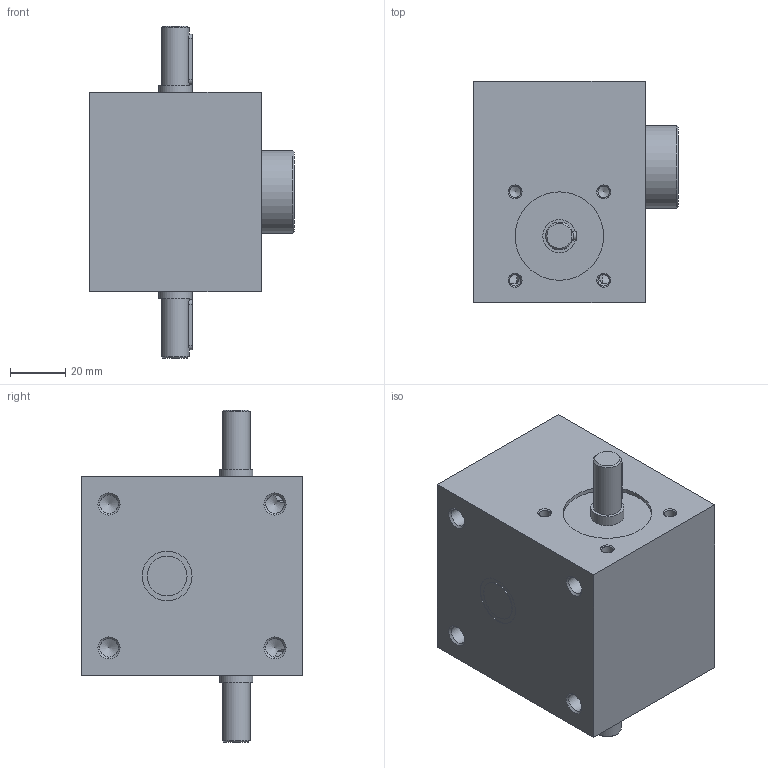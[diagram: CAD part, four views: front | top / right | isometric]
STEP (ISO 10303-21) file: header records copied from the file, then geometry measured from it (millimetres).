
FILE_DESCRIPTION(/* description */ (''),/* implementation_level */ '2;1');
FILE_NAME(/* name */ 'D:\FOLDER Tomasz Michałek\pliki z pulpitu\Katalogi przekładni\Podnośniki śrubowe\Pivexin Technology\Podnosniki - potrzebne\Modele podnosnikow\R\SG5\M1-R-161\SG5-R-L.stp',/* time_stamp */ '2016-05-17T22:59:28+02:00',/* author */ ('Tomasz'),/* organization */ (''),/* preprocessor_version */ 'ST-DEVELOPER v16.1',/* originating_system */ 'Autodesk Inventor 2016',/* authorisation */ '');
FILE_SCHEMA (('AUTOMOTIVE_DESIGN { 1 0 10303 214 3 1 1 }'));
Length unit declared in the file: millimetre
Products named in the file (3): SG5-R-H_obudowa; SG-R-H_slimak; SG5-R-H
Assembly tree (2 placements, depth 2):
  SG5-R-H
    SG5-R-H_obudowa
    SG-R-H_slimak
Bounding box: 74 x 80 x 120 mm (x, y, z)
Volume: 343559.9 mm3; surface area: 46201 mm2
Topology: 2 solids, 2 shells, 89 faces, 217 edges, 136 vertices
Faces by surface type: cone 35, cylinder 32, plane 22
Full cylindrical faces by diameter (mm): 4.134 x8, 6.647 x8, 10 x2, 12 x2, 14.4 x1, 18 x2, 30 x1, 32 x2
Entity records: 2287 total; most frequent: CARTESIAN_POINT 577, DIRECTION 362, ORIENTED_EDGE 246, AXIS2_PLACEMENT_3D 167, EDGE_LOOP 160, EDGE_CURVE 123, VERTEX_POINT 103, FACE_OUTER_BOUND 87
